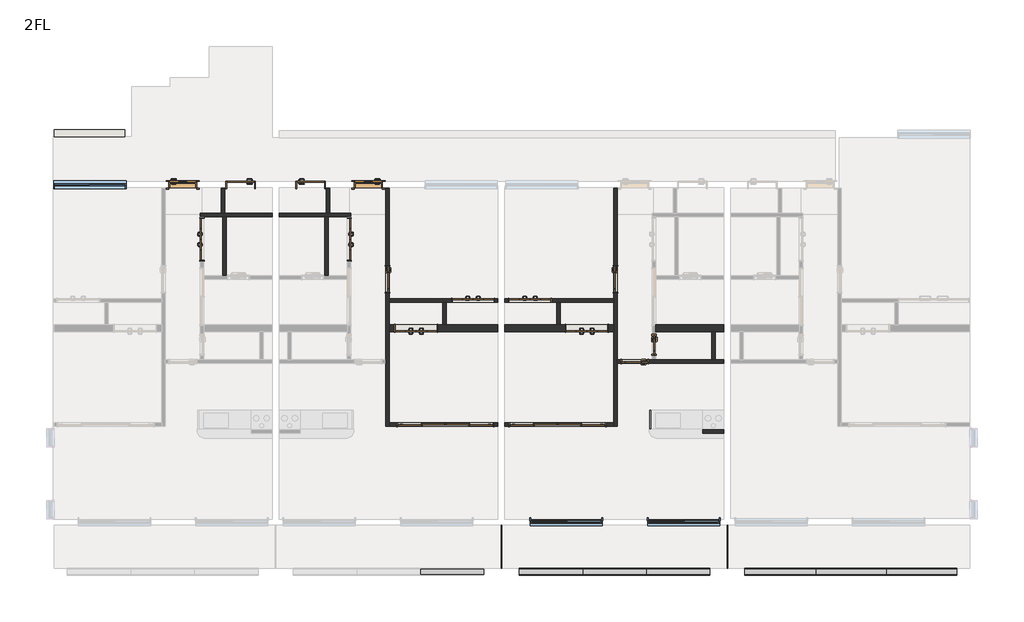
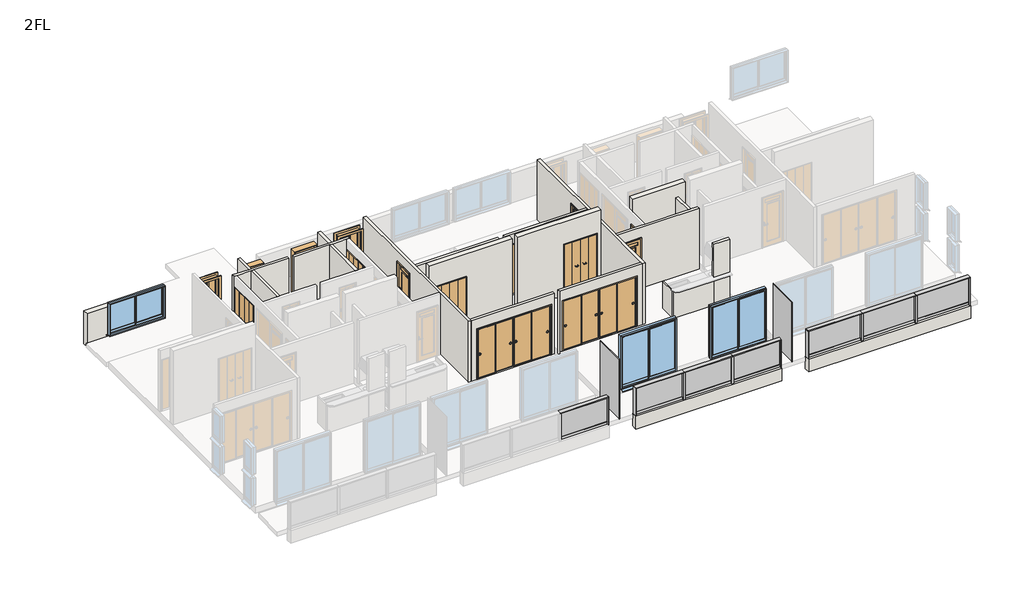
# One storey, part 2 of 3: 25 walls, 16 doors, 16 members, 9 plates, 3 windows.
"""IFC4 building model written with IfcOpenShell, lengths in millimetres."""

from ifc_helpers import new_model, si_unit, frame, origin, place, context, project, spatial, polyline, outline, extrude, faceted_brep, transform, mapped, element, save
from components import door_800x2000_a7d1584b, door_800x2000_010bfebf, w1200h2000_98cacc9b, w1200h2000_ebe1d490, w1200h2000_6a144d60, w1200h2000_99d19fb3, w2800h2000_670b855b, w2800h2000_04aa64cd, w600h2000_7f2747f4, w800h2000_1d97c4d4, w800h2000_0ab7d42c, w800h2000_13e9f519, w800h2000_ccb03061, member_25x150_3f8205e2, member_25x150_f694351b, member_25x150_e95393f9, member_70x150_851c8a9b, plate_6aa9e5b9, plate_9f48129f, plate_365944b3, plate_b830f844, plate_2f85ae4c, window_2000x1200_fc91d1cf, window_2000x2000_f1ff98da

model = new_model("IFC4")

# Units and contexts
model_context = context("Model", 3, world=origin())
ifc_project = project(units=[si_unit("LENGTHUNIT", "METRE", prefix="MILLI")], contexts=[model_context])

# Site, building, storey
site = spatial("IfcSite", under=ifc_project)
building = spatial("IfcBuilding", under=site)
storey = spatial("IfcBuildingStorey", under=building, Name="2FL", Elevation=4000.0)

# Doors
placement = place(None, origin())
door_800x2000_shape = door_800x2000_a7d1584b(model_context)
element("IfcDoor", 1, ObjectType="片開き3 : 800x2000", at=placement, inside=storey, context=model_context, shape_type="MappedRepresentation", body=[
    mapped(door_800x2000_shape, transform((-7378.7187246, -5726.3671638, 4000.0), x_axis=(1.0, 0.0, 0.0), y_axis=(0.0, 1.0, 0.0), z_axis=(0.0, 0.0, 1.0))),
])
door_800x2000_2_shape = door_800x2000_010bfebf(model_context)
element("IfcDoor", 2, ObjectType="片開き3 : 800x2000", at=placement, inside=storey, context=model_context, shape_type="MappedRepresentation", body=[
    mapped(door_800x2000_2_shape, transform((-2078.7187246, -5726.3671638, 4000.0), x_axis=(-1.0, 0.0, 0.0), y_axis=(0.0, -1.0, 0.0), z_axis=(0.0, 0.0, 1.0))),
])
w1200h2000_shape = w1200h2000_98cacc9b(model_context)
element("IfcDoor", 3, ObjectType="木製折戸 : w1200h2000", at=placement, inside=storey, context=model_context, shape_type="MappedRepresentation", body=[
    mapped(w1200h2000_shape, transform((4158.7812754, -9820.1171638, 4100.0), x_axis=(-1.0, 0.0, 0.0), y_axis=(0.0, -1.0, 0.0), z_axis=(0.0, 0.0, 1.0))),
])
w1200h2000_2_shape = w1200h2000_ebe1d490(model_context)
element("IfcDoor", 4, ObjectType="木製折戸 : w1200h2000", at=placement, inside=storey, context=model_context, shape_type="MappedRepresentation", body=[
    mapped(w1200h2000_2_shape, transform((-716.2187246, -9820.1171638, 4100.0), x_axis=(1.0, 0.0, 0.0), y_axis=(0.0, 1.0, 0.0), z_axis=(0.0, 0.0, 1.0))),
])
w1200h2000_3_shape = w1200h2000_6a144d60(model_context)
element("IfcDoor", 5, ObjectType="木製折戸 : w1200h2000", at=placement, inside=storey, context=model_context, shape_type="MappedRepresentation", body=[
    mapped(w1200h2000_3_shape, transform((-6828.7187246, -7280.1171638, 4100.0), x_axis=(0.0, 1.0, 0.0), y_axis=(-1.0, 0.0, 0.0), z_axis=(0.0, 0.0, 1.0))),
])
element("IfcDoor", 6, ObjectType="木製折戸 : w1200h2000", at=placement, inside=storey, context=model_context, shape_type="MappedRepresentation", body=[
    mapped(w1200h2000_3_shape, transform((2533.7812754, -9020.1171638, 4100.0), x_axis=(1.0, 0.0, 0.0), y_axis=(0.0, 1.0, 0.0), z_axis=(0.0, 0.0, 1.0))),
])
w1200h2000_4_shape = w1200h2000_99d19fb3(model_context)
element("IfcDoor", 7, ObjectType="木製折戸 : w1200h2000", at=placement, inside=storey, context=model_context, shape_type="MappedRepresentation", body=[
    mapped(w1200h2000_4_shape, transform((908.7812754, -9020.1171638, 4100.0), x_axis=(-1.0, 0.0, 0.0), y_axis=(0.0, -1.0, 0.0), z_axis=(0.0, 0.0, 1.0))),
])
element("IfcDoor", 8, ObjectType="木製折戸 : w1200h2000", at=placement, inside=storey, context=model_context, shape_type="MappedRepresentation", body=[
    mapped(w1200h2000_4_shape, transform((-2628.7187246, -7280.1171638, 4100.0), x_axis=(0.0, 1.0, 0.0), y_axis=(-1.0, 0.0, 0.0), z_axis=(0.0, 0.0, 1.0))),
])
w2800h2000_shape = w2800h2000_670b855b(model_context)
element("IfcDoor", 9, ObjectType="引違い 4 枚 2 溝_襖 : w2800h2000", at=placement, inside=storey, context=model_context, shape_type="MappedRepresentation", body=[
    mapped(w2800h2000_shape, transform((3315.7457714, -12570.1171638, 4100.0), x_axis=(-1.0, 0.0, 0.0), y_axis=(0.0, -1.0, 0.0), z_axis=(0.0, 0.0, 1.0))),
])
w2800h2000_2_shape = w2800h2000_04aa64cd(model_context)
element("IfcDoor", 10, ObjectType="引違い 4 枚 2 溝_襖 : w2800h2000", at=placement, inside=storey, context=model_context, shape_type="MappedRepresentation", body=[
    mapped(w2800h2000_2_shape, transform((126.8167793, -12570.1171638, 4100.0), x_axis=(1.0, 0.0, 0.0), y_axis=(0.0, 1.0, 0.0), z_axis=(0.0, 0.0, 1.0))),
])
w600h2000_shape = w600h2000_7f2747f4(model_context)
element("IfcDoor", 11, ObjectType="片開戸CL2058 : w600h2000", at=placement, inside=storey, context=model_context, shape_type="MappedRepresentation", body=[
    mapped(w600h2000_shape, transform((6071.2812754, -10295.1171638, 4100.0), x_axis=(0.0, -1.0, 0.0), y_axis=(1.0, 0.0, 0.0), z_axis=(0.0, 0.0, 1.0))),
])
w800h2000_shape = w800h2000_1d97c4d4(model_context)
element("IfcDoor", 12, ObjectType="片開 : w800h2000", at=placement, inside=storey, context=model_context, shape_type="MappedRepresentation", body=[
    mapped(w800h2000_shape, transform((-5728.7187246, -5726.3671638, 4000.0), x_axis=(-1.0, 0.0, 0.0), y_axis=(0.0, -1.0, 0.0), z_axis=(0.0, 0.0, 1.0))),
])
w800h2000_2_shape = w800h2000_0ab7d42c(model_context)
element("IfcDoor", 13, ObjectType="片開 : w800h2000", at=placement, inside=storey, context=model_context, shape_type="MappedRepresentation", body=[
    mapped(w800h2000_2_shape, transform((-3728.7187246, -5726.3671638, 4000.0), x_axis=(1.0, 0.0, 0.0), y_axis=(0.0, 1.0, 0.0), z_axis=(0.0, 0.0, 1.0))),
])
w800h2000_3_shape = w800h2000_13e9f519(model_context)
element("IfcDoor", 14, ObjectType="片開戸CL2058 : w800h2000", at=placement, inside=storey, context=model_context, shape_type="MappedRepresentation", body=[
    mapped(w800h2000_3_shape, transform((4971.2812754, -8420.1171638, 4100.0), x_axis=(0.0, -1.0, 0.0), y_axis=(1.0, 0.0, 0.0), z_axis=(0.0, 0.0, 1.0))),
])
w800h2000_4_shape = w800h2000_ccb03061(model_context)
element("IfcDoor", 15, ObjectType="片開戸CL2058 : w800h2000", at=placement, inside=storey, context=model_context, shape_type="MappedRepresentation", body=[
    mapped(w800h2000_4_shape, transform((-1528.7187246, -8420.1171638, 4100.0), x_axis=(0.0, -1.0, 0.0), y_axis=(1.0, 0.0, 0.0), z_axis=(0.0, 0.0, 1.0))),
])
element("IfcDoor", 16, ObjectType="片開戸CL2058 : w800h2000", at=placement, inside=storey, context=model_context, shape_type="MappedRepresentation", body=[
    mapped(w800h2000_4_shape, transform((5521.2812754, -10770.1171638, 4100.0), x_axis=(-1.0, 0.0, 0.0), y_axis=(0.0, -1.0, 0.0), z_axis=(0.0, 0.0, 1.0))),
])

# Members
member_25x150_shape = member_25x150_3f8205e2(model_context)
element("IfcMember", 17, ObjectType="長方形のマリオン : 25x150", at=placement, inside=storey, context=model_context, shape_type="MappedRepresentation", body=[
    mapped(member_25x150_shape, transform((1221.2812754, -16770.1171638, 4000.0), x_axis=(1.0, 0.0, 0.0), y_axis=(0.0, -1.0, 0.0), z_axis=(0.0, 0.0, -1.0))),
])
element("IfcMember", 18, ObjectType="長方形のマリオン : 25x150", at=placement, inside=storey, context=model_context, shape_type="MappedRepresentation", body=[
    mapped(member_25x150_shape, transform((7671.2812754, -16770.1171638, 4000.0), x_axis=(1.0, 0.0, 0.0), y_axis=(0.0, -1.0, 0.0), z_axis=(0.0, 0.0, -1.0))),
])
element("IfcMember", 19, ObjectType="長方形のマリオン : 25x150", at=placement, inside=storey, context=model_context, shape_type="MappedRepresentation", body=[
    mapped(member_25x150_shape, transform((14721.2812754, -16770.1171638, 4000.0), x_axis=(1.0, 0.0, 0.0), y_axis=(0.0, -1.0, 0.0), z_axis=(0.0, 0.0, -1.0))),
])
element("IfcMember", 20, ObjectType="長方形のマリオン : 25x150", at=placement, inside=storey, context=model_context, shape_type="MappedRepresentation", body=[
    mapped(member_25x150_shape, transform((2221.2812754, -16770.1171638, 5075.0), x_axis=(-1.0, 0.0, 0.0), y_axis=(0.0, -1.0, 0.0), z_axis=(0.0, 0.0, 1.0))),
])
element("IfcMember", 21, ObjectType="長方形のマリオン : 25x150", at=placement, inside=storey, context=model_context, shape_type="MappedRepresentation", body=[
    mapped(member_25x150_shape, transform((8671.2812754, -16770.1171638, 5075.0), x_axis=(-1.0, 0.0, 0.0), y_axis=(0.0, -1.0, 0.0), z_axis=(0.0, 0.0, 1.0))),
])
member_25x150_2_shape = member_25x150_f694351b(model_context)
element("IfcMember", 22, ObjectType="長方形のマリオン : 25x150", at=placement, inside=storey, context=model_context, shape_type="MappedRepresentation", body=[
    mapped(member_25x150_2_shape, transform((1221.2812754, -16770.1171638, 5100.0), x_axis=(0.0, 0.0, 1.0), y_axis=(0.0, -1.0, 0.0), z_axis=(1.0, 0.0, 0.0))),
])
element("IfcMember", 23, ObjectType="長方形のマリオン : 25x150", at=placement, inside=storey, context=model_context, shape_type="MappedRepresentation", body=[
    mapped(member_25x150_2_shape, transform((7671.2812754, -16770.1171638, 5100.0), x_axis=(0.0, 0.0, 1.0), y_axis=(0.0, -1.0, 0.0), z_axis=(1.0, 0.0, 0.0))),
])
element("IfcMember", 24, ObjectType="長方形のマリオン : 25x150", at=placement, inside=storey, context=model_context, shape_type="MappedRepresentation", body=[
    mapped(member_25x150_2_shape, transform((4037.947942, -16770.1171638, 5100.0), x_axis=(0.0, 0.0, 1.0), y_axis=(0.0, -1.0, 0.0), z_axis=(1.0, 0.0, 0.0))),
])
element("IfcMember", 25, ObjectType="長方形のマリオン : 25x150", at=placement, inside=storey, context=model_context, shape_type="MappedRepresentation", body=[
    mapped(member_25x150_2_shape, transform((5854.6146087, -16770.1171638, 5100.0), x_axis=(0.0, 0.0, 1.0), y_axis=(0.0, -1.0, 0.0), z_axis=(1.0, 0.0, 0.0))),
])
member_25x150_3_shape = member_25x150_e95393f9(model_context)
element("IfcMember", 26, ObjectType="長方形のマリオン : 25x150", at=placement, inside=storey, context=model_context, shape_type="MappedRepresentation", body=[
    mapped(member_25x150_3_shape, transform((14721.2812754, -16770.1171638, 5100.0), x_axis=(0.0, 0.0, 1.0), y_axis=(0.0, -1.0, 0.0), z_axis=(1.0, 0.0, 0.0))),
])
element("IfcMember", 27, ObjectType="長方形のマリオン : 25x150", at=placement, inside=storey, context=model_context, shape_type="MappedRepresentation", body=[
    mapped(member_25x150_3_shape, transform((10687.947942, -16770.1171638, 5100.0), x_axis=(0.0, 0.0, 1.0), y_axis=(0.0, -1.0, 0.0), z_axis=(1.0, 0.0, 0.0))),
])
element("IfcMember", 28, ObjectType="長方形のマリオン : 25x150", at=placement, inside=storey, context=model_context, shape_type="MappedRepresentation", body=[
    mapped(member_25x150_3_shape, transform((12704.6146087, -16770.1171638, 5100.0), x_axis=(0.0, 0.0, 1.0), y_axis=(0.0, -1.0, 0.0), z_axis=(1.0, 0.0, 0.0))),
])
member_70x150_shape = member_70x150_851c8a9b(model_context)
element("IfcMember", 29, ObjectType="長方形のマリオン : 70x150", at=placement, inside=storey, context=model_context, shape_type="MappedRepresentation", body=[
    mapped(member_70x150_shape, transform((4037.947942, -16770.1171638, 4000.0), x_axis=(1.0, 0.0, 0.0), y_axis=(0.0, -1.0, 0.0), z_axis=(0.0, 0.0, -1.0))),
])
element("IfcMember", 30, ObjectType="長方形のマリオン : 70x150", at=placement, inside=storey, context=model_context, shape_type="MappedRepresentation", body=[
    mapped(member_70x150_shape, transform((5854.6146087, -16770.1171638, 4000.0), x_axis=(1.0, 0.0, 0.0), y_axis=(0.0, -1.0, 0.0), z_axis=(0.0, 0.0, -1.0))),
])
element("IfcMember", 31, ObjectType="長方形のマリオン : 70x150", at=placement, inside=storey, context=model_context, shape_type="MappedRepresentation", body=[
    mapped(member_70x150_shape, transform((10687.947942, -16770.1171638, 4000.0), x_axis=(1.0, 0.0, 0.0), y_axis=(0.0, -1.0, 0.0), z_axis=(0.0, 0.0, -1.0))),
])
element("IfcMember", 32, ObjectType="長方形のマリオン : 70x150", at=placement, inside=storey, context=model_context, shape_type="MappedRepresentation", body=[
    mapped(member_70x150_shape, transform((12704.6146087, -16770.1171638, 4000.0), x_axis=(1.0, 0.0, 0.0), y_axis=(0.0, -1.0, 0.0), z_axis=(0.0, 0.0, -1.0))),
])

# Plates
plate_shape = plate_6aa9e5b9(model_context)
element("IfcPlate", 33, ObjectType="システム パネル : 標準", at=placement, inside=storey, context=model_context, shape_type="MappedRepresentation", body=[
    mapped(plate_shape, transform((1721.2812754, -16056.9921638, 3950.0), x_axis=(0.0, -1.0, 0.0), y_axis=(1.0, 0.0, 0.0), z_axis=(0.0, 0.0, 1.0))),
])
element("IfcPlate", 34, ObjectType="システム パネル : 標準", at=placement, inside=storey, context=model_context, shape_type="MappedRepresentation", body=[
    mapped(plate_shape, transform((8171.2812754, -16056.9921638, 3950.0), x_axis=(0.0, -1.0, 0.0), y_axis=(1.0, 0.0, 0.0), z_axis=(0.0, 0.0, 1.0))),
])
plate_2_shape = plate_9f48129f(model_context)
element("IfcPlate", 35, ObjectType="r パネル FIX 下框付 : 框 H100", at=placement, inside=storey, context=model_context, shape_type="MappedRepresentation", body=[
    mapped(plate_2_shape, transform((317.947942, -16770.1171638, 4000.0), x_axis=(1.0, 0.0, 0.0), y_axis=(0.0, 1.0, 0.0), z_axis=(0.0, 0.0, 1.0))),
])
element("IfcPlate", 36, ObjectType="r パネル FIX 下框付 : 框 H100", at=placement, inside=storey, context=model_context, shape_type="MappedRepresentation", body=[
    mapped(plate_2_shape, transform((3124.6146087, -16770.1171638, 4000.0), x_axis=(1.0, 0.0, 0.0), y_axis=(0.0, 1.0, 0.0), z_axis=(0.0, 0.0, 1.0))),
])
element("IfcPlate", 37, ObjectType="r パネル FIX 下框付 : 框 H100", at=placement, inside=storey, context=model_context, shape_type="MappedRepresentation", body=[
    mapped(plate_2_shape, transform((6767.947942, -16770.1171638, 4000.0), x_axis=(1.0, 0.0, 0.0), y_axis=(0.0, 1.0, 0.0), z_axis=(0.0, 0.0, 1.0))),
])
plate_3_shape = plate_365944b3(model_context)
element("IfcPlate", 38, ObjectType="r パネル FIX 下框付 : 框 H100", at=placement, inside=storey, context=model_context, shape_type="MappedRepresentation", body=[
    mapped(plate_3_shape, transform((4946.2812754, -16770.1171638, 4000.0), x_axis=(1.0, 0.0, 0.0), y_axis=(0.0, 1.0, 0.0), z_axis=(0.0, 0.0, 1.0))),
])
plate_4_shape = plate_b830f844(model_context)
element("IfcPlate", 39, ObjectType="r パネル FIX 下框付 : 框 H100", at=placement, inside=storey, context=model_context, shape_type="MappedRepresentation", body=[
    mapped(plate_4_shape, transform((9674.6146087, -16770.1171638, 4000.0), x_axis=(1.0, 0.0, 0.0), y_axis=(0.0, 1.0, 0.0), z_axis=(0.0, 0.0, 1.0))),
])
element("IfcPlate", 40, ObjectType="r パネル FIX 下框付 : 框 H100", at=placement, inside=storey, context=model_context, shape_type="MappedRepresentation", body=[
    mapped(plate_4_shape, transform((13717.947942, -16770.1171638, 4000.0), x_axis=(1.0, 0.0, 0.0), y_axis=(0.0, 1.0, 0.0), z_axis=(0.0, 0.0, 1.0))),
])
plate_5_shape = plate_2f85ae4c(model_context)
element("IfcPlate", 41, ObjectType="r パネル FIX 下框付 : 框 H100", at=placement, inside=storey, context=model_context, shape_type="MappedRepresentation", body=[
    mapped(plate_5_shape, transform((11696.2812754, -16770.1171638, 4000.0), x_axis=(1.0, 0.0, 0.0), y_axis=(0.0, 1.0, 0.0), z_axis=(0.0, 0.0, 1.0))),
])

# Walls
element("IfcWall", 42, ObjectType="内壁(R)RC200", at=placement, inside=storey, context=model_context, shape_type="Brep", body=[
    faceted_brep([(1621.2812754, -9720.1171638, 4000.0), (146.2812754, -9720.1171638, 4000.0), (46.2812754, -9720.1171638, 4000.0), (-1478.7187246, -9720.1171638, 4000.0), (-1478.7187246, -9720.1171638, 7000.0), (1621.2812754, -9720.1171638, 7000.0), (-96.2187246, -9720.1171638, 6120.0), (-1336.2187246, -9720.1171638, 6120.0), (-1336.2187246, -9720.1171638, 4100.0), (-96.2187246, -9720.1171638, 4100.0), (1621.2812754, -9920.1171638, 4000.0), (1621.2812754, -9920.1171638, 7000.0), (-1478.7187246, -9920.1171638, 7000.0), (-1478.7187246, -9920.1171638, 4000.0), (-96.2187246, -9920.1171638, 6120.0), (-96.2187246, -9920.1171638, 4100.0), (-1336.2187246, -9920.1171638, 4100.0), (-1336.2187246, -9920.1171638, 6120.0)], [[[0, 1, 2, 3, 4, 5], [6, 7, 8, 9]], [[10, 11, 12, 13], [14, 15, 16, 17]], [[3, 2, 1, 0, 10, 13]], [[5, 4, 12, 11]], [[15, 14, 6, 9]], [[16, 15, 9, 8]], [[17, 16, 8, 7]], [[14, 17, 7, 6]], [[0, 5, 11, 10]], [[4, 3, 13, 12]]]),
])
element("IfcWall", 43, ObjectType="内壁(R)RC200", at=placement, inside=storey, context=model_context, shape_type="Brep", body=[
    faceted_brep([(1821.2812754, -9920.1171638, 4000.0), (4921.2812754, -9920.1171638, 4000.0), (4921.2812754, -9920.1171638, 7000.0), (1821.2812754, -9920.1171638, 7000.0), (3538.7812754, -9920.1171638, 6120.0), (4778.7812754, -9920.1171638, 6120.0), (4778.7812754, -9920.1171638, 4100.0), (3538.7812754, -9920.1171638, 4100.0), (1821.2812754, -9720.1171638, 4000.0), (1821.2812754, -9720.1171638, 7000.0), (4921.2812754, -9720.1171638, 7000.0), (4921.2812754, -9720.1171638, 4000.0), (3396.2812754, -9720.1171638, 4000.0), (3296.2812754, -9720.1171638, 4000.0), (3538.7812754, -9720.1171638, 6120.0), (3538.7812754, -9720.1171638, 4100.0), (4778.7812754, -9720.1171638, 4100.0), (4778.7812754, -9720.1171638, 6120.0)], [[[0, 1, 2, 3], [4, 5, 6, 7]], [[8, 9, 10, 11, 12, 13], [14, 15, 16, 17]], [[1, 0, 8, 13, 12, 11]], [[3, 2, 10, 9]], [[15, 14, 4, 7]], [[16, 15, 7, 6]], [[17, 16, 6, 5]], [[14, 17, 5, 4]], [[0, 3, 9, 8]], [[2, 1, 11, 10]]]),
])
element("IfcWall", 44, ObjectType="内壁(R)RC200", at=placement, inside=storey, context=model_context, shape_type="Brep", body=[
    faceted_brep([(6121.2812754, -9920.1171638, 4000.0), (7721.2812754, -9920.1171638, 4000.0), (7821.2812754, -9920.1171638, 4000.0), (8071.2812754, -9920.1171638, 4000.0), (8071.2812754, -9920.1171638, 7000.0), (6121.2812754, -9920.1171638, 7000.0), (6121.2812754, -9720.1171638, 4000.0), (6121.2812754, -9720.1171638, 7000.0), (8071.2812754, -9720.1171638, 7000.0), (8071.2812754, -9720.1171638, 4000.0)], [[[0, 1, 2, 3, 4, 5]], [[6, 7, 8, 9]], [[3, 2, 1, 0, 6, 9]], [[5, 4, 8, 7]], [[0, 5, 7, 6]], [[4, 3, 9, 8]]]),
])
element("IfcWall", 45, ObjectType="(R)RC200", at=placement, inside=storey, context=model_context, shape_type="SweptSolid", body=[
    extrude(outline(polyline([(-9028.7187246, -4350.1171638), (-11052.4687246, -4350.1171638), (-11052.4687246, -4150.1171638), (-9028.7187246, -4150.1171638), (-9028.7187246, -4350.1171638)])), frame((0.0, 0.0, 3800.0), z_axis=(0.0, 0.0, 1.0), x_axis=(1.0, 0.0, 0.0)), (0.0, 0.0, 1.0), 1300.0),
])
element("IfcWall", 46, ObjectType="(R)RC200", at=placement, inside=storey, context=model_context, shape_type="SweptSolid", body=[
    extrude(outline(polyline([(7671.2812754, -16870.1171638), (2221.2812754, -16870.1171638), (2221.2812754, -16670.1171638), (7671.2812754, -16670.1171638), (7671.2812754, -16870.1171638)])), frame((0.0, 0.0, 3500.0), z_axis=(0.0, 0.0, 1.0), x_axis=(1.0, 0.0, 0.0)), (0.0, 0.0, 1.0), 500.0),
])
element("IfcWall", 47, ObjectType="(R)RC200", at=placement, inside=storey, context=model_context, shape_type="SweptSolid", body=[
    extrude(outline(polyline([(14721.2812754, -16870.1171638), (8671.2812754, -16870.1171638), (8671.2812754, -16670.1171638), (14721.2812754, -16670.1171638), (14721.2812754, -16870.1171638)])), frame((0.0, 0.0, 3500.0), z_axis=(0.0, 0.0, 1.0), x_axis=(1.0, 0.0, 0.0)), (0.0, 0.0, 1.0), 500.0),
])
element("IfcWall", 48, ObjectType="(F)30", at=placement, inside=storey, context=model_context, shape_type="SweptSolid", body=[
    extrude(outline(polyline([(5948.8875596, -12720.1171638), (5948.8875596, -12165.1171638), (5978.8875596, -12165.1171638), (5978.8875596, -12720.1171638), (5948.8875596, -12720.1171638)])), frame((0.0, 0.0, 4100.0), z_axis=(0.0, 0.0, 1.0), x_axis=(1.0, 0.0, 0.0)), (0.0, 0.0, 1.0), 1060.0),
])
element("IfcWall", 49, ObjectType="(L1)LGS100", at=placement, inside=storey, context=model_context, shape_type="Brep", body=[
    faceted_brep([(-6878.7187246, -6630.1171638, 4000.0), (-6778.7187246, -6630.1171638, 4000.0), (-6238.7187246, -6630.1171638, 4000.0), (-6138.7187246, -6630.1171638, 4000.0), (-4828.7187246, -6630.1171638, 4000.0), (-4828.7187246, -6630.1171638, 6500.0), (-6138.7187246, -6630.1171638, 6500.0), (-6238.7187246, -6630.1171638, 6500.0), (-6778.7187246, -6630.1171638, 6500.0), (-6878.7187246, -6630.1171638, 6500.0), (-6878.7187246, -6530.1171638, 4000.0), (-6878.7187246, -6530.1171638, 6500.0), (-6278.7187246, -6530.1171638, 6500.0), (-6178.7187246, -6530.1171638, 6500.0), (-4828.7187246, -6530.1171638, 6500.0), (-4828.7187246, -6530.1171638, 4000.0), (-6178.7187246, -6530.1171638, 4000.0), (-6278.7187246, -6530.1171638, 4000.0)], [[[0, 1, 2, 3, 4, 5, 6, 7, 8, 9]], [[10, 11, 12, 13, 14, 15, 16, 17]], [[4, 3, 2, 1, 0, 10, 17, 16, 15]], [[9, 8, 7, 6, 5, 14, 13, 12, 11]], [[0, 9, 11, 10]], [[5, 4, 15, 14]]]),
])
element("IfcWall", 50, ObjectType="(L1)LGS100", at=placement, inside=storey, context=model_context, shape_type="SweptSolid", body=[
    extrude(outline(polyline([(-6178.7187246, -5826.3671638), (-6178.7187246, -6530.1171638), (-6278.7187246, -6530.1171638), (-6278.7187246, -5826.3671638), (-6178.7187246, -5826.3671638)])), frame((0.0, 0.0, 4000.0), z_axis=(0.0, 0.0, 1.0), x_axis=(1.0, 0.0, 0.0)), (0.0, 0.0, 1.0), 2500.0),
])
element("IfcWall", 51, ObjectType="(L1)LGS100", at=placement, inside=storey, context=model_context, shape_type="SweptSolid", body=[
    extrude(outline(polyline([(-6138.7187246, -6630.1171638), (-6138.7187246, -8320.1171638), (-6238.7187246, -8320.1171638), (-6238.7187246, -6630.1171638), (-6138.7187246, -6630.1171638)])), frame((0.0, 0.0, 4000.0), z_axis=(0.0, 0.0, 1.0), x_axis=(1.0, 0.0, 0.0)), (0.0, 0.0, 1.0), 2500.0),
])
element("IfcWall", 52, ObjectType="(L1)LGS100", at=placement, inside=storey, context=model_context, shape_type="Brep", body=[
    faceted_brep([(1621.2812754, -8970.1171638, 4000.0), (-1478.7187246, -8970.1171638, 4000.0), (-1478.7187246, -8970.1171638, 6500.0), (1621.2812754, -8970.1171638, 6500.0), (288.7812754, -8970.1171638, 6120.0), (288.7812754, -8970.1171638, 4100.0), (1528.7812754, -8970.1171638, 4100.0), (1528.7812754, -8970.1171638, 6120.0), (-1478.7187246, -9070.1171638, 4000.0), (46.2812754, -9070.1171638, 4000.0), (146.2812754, -9070.1171638, 4000.0), (1621.2812754, -9070.1171638, 4000.0), (1621.2812754, -9070.1171638, 6500.0), (146.2812754, -9070.1171638, 6500.0), (46.2812754, -9070.1171638, 6500.0), (-1478.7187246, -9070.1171638, 6500.0), (288.7812754, -9070.1171638, 4100.0), (288.7812754, -9070.1171638, 6120.0), (1528.7812754, -9070.1171638, 6120.0), (1528.7812754, -9070.1171638, 4100.0)], [[[0, 1, 2, 3], [4, 5, 6, 7]], [[8, 9, 10, 11, 12, 13, 14, 15], [16, 17, 18, 19]], [[1, 0, 11, 10, 9, 8]], [[3, 2, 15, 14, 13, 12]], [[2, 1, 8, 15]], [[4, 17, 16, 5]], [[5, 16, 19, 6]], [[17, 4, 7, 18]], [[18, 7, 6, 19]], [[0, 3, 12, 11]]]),
])
element("IfcWall", 53, ObjectType="(L1)LGS100", at=placement, inside=storey, context=model_context, shape_type="SweptSolid", body=[
    extrude(outline(polyline([(146.2812754, -9070.1171638), (146.2812754, -9720.1171638), (46.2812754, -9720.1171638), (46.2812754, -9070.1171638), (146.2812754, -9070.1171638)])), frame((0.0, 0.0, 4000.0), z_axis=(0.0, 0.0, 1.0), x_axis=(1.0, 0.0, 0.0)), (0.0, 0.0, 1.0), 2500.0),
])
element("IfcWall", 54, ObjectType="(L1)LGS100", at=placement, inside=storey, context=model_context, shape_type="Brep", body=[
    faceted_brep([(-1478.7187246, -12620.1171638, 4000.0), (-1478.7187246, -12520.1171638, 4000.0), (-1478.7187246, -9920.1171638, 4000.0), (-1478.7187246, -9720.1171638, 4000.0), (-1478.7187246, -9070.1171638, 4000.0), (-1478.7187246, -8970.1171638, 4000.0), (-1478.7187246, -5826.3671638, 4000.0), (-1478.7187246, -5826.3671638, 6500.0), (-1478.7187246, -8970.1171638, 6500.0), (-1478.7187246, -9070.1171638, 6500.0), (-1478.7187246, -12520.1171638, 6500.0), (-1478.7187246, -12620.1171638, 6500.0), (-1478.7187246, -8820.1171638, 4100.0), (-1478.7187246, -8820.1171638, 6100.0), (-1478.7187246, -8020.1171638, 6100.0), (-1478.7187246, -8020.1171638, 4100.0), (-1578.7187246, -12620.1171638, 4000.0), (-1578.7187246, -12620.1171638, 6500.0), (-1578.7187246, -10820.1171638, 6500.0), (-1578.7187246, -10720.1171638, 6500.0), (-1578.7187246, -5826.3671638, 6500.0), (-1578.7187246, -5826.3671638, 4000.0), (-1578.7187246, -10720.1171638, 4000.0), (-1578.7187246, -10820.1171638, 4000.0), (-1578.7187246, -8820.1171638, 4100.0), (-1578.7187246, -8020.1171638, 4100.0), (-1578.7187246, -8020.1171638, 6100.0), (-1578.7187246, -8820.1171638, 6100.0)], [[[0, 1, 2, 3, 4, 5, 6, 7, 8, 9, 10, 11], [12, 13, 14, 15]], [[16, 17, 18, 19, 20, 21, 22, 23], [24, 25, 26, 27]], [[6, 5, 4, 3, 2, 1, 0, 16, 23, 22, 21]], [[11, 10, 9, 8, 7, 20, 19, 18, 17]], [[0, 11, 17, 16]], [[13, 12, 24, 27]], [[14, 13, 27, 26]], [[15, 14, 26, 25]], [[12, 15, 25, 24]], [[7, 6, 21, 20]]]),
])
element("IfcWall", 55, ObjectType="(L1)LGS100", at=placement, inside=storey, context=model_context, shape_type="Brep", body=[
    faceted_brep([(-2578.7187246, -6530.1171638, 4000.0), (-3178.7187246, -6530.1171638, 4000.0), (-3278.7187246, -6530.1171638, 4000.0), (-4628.7187246, -6530.1171638, 4000.0), (-4628.7187246, -6530.1171638, 6500.0), (-3278.7187246, -6530.1171638, 6500.0), (-3178.7187246, -6530.1171638, 6500.0), (-2578.7187246, -6530.1171638, 6500.0), (-2578.7187246, -6630.1171638, 4000.0), (-2578.7187246, -6630.1171638, 6500.0), (-2678.7187246, -6630.1171638, 6500.0), (-3218.7187246, -6630.1171638, 6500.0), (-3318.7187246, -6630.1171638, 6500.0), (-4628.7187246, -6630.1171638, 6500.0), (-4628.7187246, -6630.1171638, 4000.0), (-3318.7187246, -6630.1171638, 4000.0), (-3218.7187246, -6630.1171638, 4000.0), (-2678.7187246, -6630.1171638, 4000.0)], [[[0, 1, 2, 3, 4, 5, 6, 7]], [[8, 9, 10, 11, 12, 13, 14, 15, 16, 17]], [[3, 2, 1, 0, 8, 17, 16, 15, 14]], [[7, 6, 5, 4, 13, 12, 11, 10, 9]], [[0, 7, 9, 8]], [[4, 3, 14, 13]]]),
])
element("IfcWall", 56, ObjectType="(L1)LGS100", at=placement, inside=storey, context=model_context, shape_type="SweptSolid", body=[
    extrude(outline(polyline([(-3178.7187246, -5826.3671638), (-3178.7187246, -6530.1171638), (-3278.7187246, -6530.1171638), (-3278.7187246, -5826.3671638), (-3178.7187246, -5826.3671638)])), frame((0.0, 0.0, 4000.0), z_axis=(0.0, 0.0, 1.0), x_axis=(1.0, 0.0, 0.0)), (0.0, 0.0, 1.0), 2500.0),
])
element("IfcWall", 57, ObjectType="(L1)LGS100", at=placement, inside=storey, context=model_context, shape_type="SweptSolid", body=[
    extrude(outline(polyline([(-3218.7187246, -6630.1171638), (-3218.7187246, -8320.1171638), (-3318.7187246, -8320.1171638), (-3318.7187246, -6630.1171638), (-3218.7187246, -6630.1171638)])), frame((0.0, 0.0, 4000.0), z_axis=(0.0, 0.0, 1.0), x_axis=(1.0, 0.0, 0.0)), (0.0, 0.0, 1.0), 2500.0),
])
element("IfcWall", 58, ObjectType="(L1)LGS100", at=placement, inside=storey, context=model_context, shape_type="SweptSolid", body=[
    extrude(outline(polyline([(4000.0, 1621.2812754), (6500.0, 1621.2812754), (6500.0, -1478.7187246), (4000.0, -1478.7187246), (4000.0, 1621.2812754)]), holes=[polyline([(6100.0, 1521.2812754), (4100.0, 1521.2812754), (4100.0, -1278.7187246), (6100.0, -1278.7187246), (6100.0, 1521.2812754)])]), frame((0.0, -12620.1171638, 0.0), z_axis=(0.0, 1.0, 0.0), x_axis=(0.0, 0.0, 1.0)), (0.0, 0.0, 1.0), 100.0),
])
element("IfcWall", 59, ObjectType="(L1)LGS100", at=placement, inside=storey, context=model_context, shape_type="Brep", body=[
    faceted_brep([(1821.2812754, -9070.1171638, 4000.0), (3296.2812754, -9070.1171638, 4000.0), (3396.2812754, -9070.1171638, 4000.0), (4921.2812754, -9070.1171638, 4000.0), (4921.2812754, -9070.1171638, 6500.0), (3396.2812754, -9070.1171638, 6500.0), (3296.2812754, -9070.1171638, 6500.0), (1821.2812754, -9070.1171638, 6500.0), (3153.7812754, -9070.1171638, 6120.0), (3153.7812754, -9070.1171638, 4100.0), (1913.7812754, -9070.1171638, 4100.0), (1913.7812754, -9070.1171638, 6120.0), (4921.2812754, -8970.1171638, 4000.0), (1821.2812754, -8970.1171638, 4000.0), (1821.2812754, -8970.1171638, 6500.0), (4921.2812754, -8970.1171638, 6500.0), (3153.7812754, -8970.1171638, 4100.0), (3153.7812754, -8970.1171638, 6120.0), (1913.7812754, -8970.1171638, 6120.0), (1913.7812754, -8970.1171638, 4100.0)], [[[0, 1, 2, 3, 4, 5, 6, 7], [8, 9, 10, 11]], [[12, 13, 14, 15], [16, 17, 18, 19]], [[3, 2, 1, 0, 13, 12]], [[7, 6, 5, 4, 15, 14]], [[4, 3, 12, 15]], [[8, 17, 16, 9]], [[9, 16, 19, 10]], [[17, 8, 11, 18]], [[18, 11, 10, 19]], [[0, 7, 14, 13]]]),
])
element("IfcWall", 60, ObjectType="(L1)LGS100", at=placement, inside=storey, context=model_context, shape_type="SweptSolid", body=[
    extrude(outline(polyline([(3396.2812754, -9070.1171638), (3396.2812754, -9720.1171638), (3296.2812754, -9720.1171638), (3296.2812754, -9070.1171638), (3396.2812754, -9070.1171638)])), frame((0.0, 0.0, 4000.0), z_axis=(0.0, 0.0, 1.0), x_axis=(1.0, 0.0, 0.0)), (0.0, 0.0, 1.0), 2500.0),
])
element("IfcWall", 61, ObjectType="(L1)LGS100", at=placement, inside=storey, context=model_context, shape_type="Brep", body=[
    faceted_brep([(5021.2812754, -12620.1171638, 4000.0), (5021.2812754, -10820.1171638, 4000.0), (5021.2812754, -10720.1171638, 4000.0), (5021.2812754, -5826.3671638, 4000.0), (5021.2812754, -5826.3671638, 6500.0), (5021.2812754, -10720.1171638, 6500.0), (5021.2812754, -10820.1171638, 6500.0), (5021.2812754, -12620.1171638, 6500.0), (5021.2812754, -8820.1171638, 4100.0), (5021.2812754, -8820.1171638, 6100.0), (5021.2812754, -8020.1171638, 6100.0), (5021.2812754, -8020.1171638, 4100.0), (4921.2812754, -12620.1171638, 4000.0), (4921.2812754, -12620.1171638, 6500.0), (4921.2812754, -12520.1171638, 6500.0), (4921.2812754, -9070.1171638, 6500.0), (4921.2812754, -8970.1171638, 6500.0), (4921.2812754, -5826.3671638, 6500.0), (4921.2812754, -5826.3671638, 4000.0), (4921.2812754, -8970.1171638, 4000.0), (4921.2812754, -9070.1171638, 4000.0), (4921.2812754, -9720.1171638, 4000.0), (4921.2812754, -9920.1171638, 4000.0), (4921.2812754, -12520.1171638, 4000.0), (4921.2812754, -8820.1171638, 4100.0), (4921.2812754, -8020.1171638, 4100.0), (4921.2812754, -8020.1171638, 6100.0), (4921.2812754, -8820.1171638, 6100.0)], [[[0, 1, 2, 3, 4, 5, 6, 7], [8, 9, 10, 11]], [[12, 13, 14, 15, 16, 17, 18, 19, 20, 21, 22, 23], [24, 25, 26, 27]], [[3, 2, 1, 0, 12, 23, 22, 21, 20, 19, 18]], [[7, 6, 5, 4, 17, 16, 15, 14, 13]], [[0, 7, 13, 12]], [[9, 8, 24, 27]], [[10, 9, 27, 26]], [[11, 10, 26, 25]], [[8, 11, 25, 24]], [[4, 3, 18, 17]]]),
])
element("IfcWall", 62, ObjectType="(L1)LGS100", at=placement, inside=storey, context=model_context, shape_type="SweptSolid", body=[
    extrude(outline(polyline([(7821.2812754, -9920.1171638), (7821.2812754, -10720.1171638), (7721.2812754, -10720.1171638), (7721.2812754, -9920.1171638), (7821.2812754, -9920.1171638)])), frame((0.0, 0.0, 4000.0), z_axis=(0.0, 0.0, 1.0), x_axis=(1.0, 0.0, 0.0)), (0.0, 0.0, 1.0), 2500.0),
])
element("IfcWall", 63, ObjectType="(L1)LGS100", at=placement, inside=storey, context=model_context, shape_type="Brep", body=[
    faceted_brep([(5021.2812754, -10820.1171638, 4000.0), (8071.2812754, -10820.1171638, 4000.0), (8071.2812754, -10820.1171638, 6500.0), (5021.2812754, -10820.1171638, 6500.0), (5121.2812754, -10820.1171638, 4100.0), (5121.2812754, -10820.1171638, 6100.0), (5921.2812754, -10820.1171638, 6100.0), (5921.2812754, -10820.1171638, 4100.0), (8071.2812754, -10720.1171638, 4000.0), (7821.2812754, -10720.1171638, 4000.0), (7721.2812754, -10720.1171638, 4000.0), (6121.2812754, -10720.1171638, 4000.0), (6021.2812754, -10720.1171638, 4000.0), (5021.2812754, -10720.1171638, 4000.0), (5021.2812754, -10720.1171638, 6500.0), (6021.2812754, -10720.1171638, 6500.0), (6121.2812754, -10720.1171638, 6500.0), (7721.2812754, -10720.1171638, 6500.0), (7821.2812754, -10720.1171638, 6500.0), (8071.2812754, -10720.1171638, 6500.0), (5121.2812754, -10720.1171638, 6100.0), (5121.2812754, -10720.1171638, 4100.0), (5921.2812754, -10720.1171638, 4100.0), (5921.2812754, -10720.1171638, 6100.0)], [[[0, 1, 2, 3], [4, 5, 6, 7]], [[8, 9, 10, 11, 12, 13, 14, 15, 16, 17, 18, 19], [20, 21, 22, 23]], [[1, 0, 13, 12, 11, 10, 9, 8]], [[3, 2, 19, 18, 17, 16, 15, 14]], [[0, 3, 14, 13]], [[4, 21, 20, 5]], [[5, 20, 23, 6]], [[6, 23, 22, 7]], [[21, 4, 7, 22]], [[2, 1, 8, 19]]]),
])
element("IfcWall", 64, ObjectType="(L1)LGS100", at=placement, inside=storey, context=model_context, shape_type="SweptSolid", body=[
    extrude(outline(polyline([(4000.0, 1821.2812754), (4000.0, 4921.2812754), (6500.0, 4921.2812754), (6500.0, 1821.2812754), (4000.0, 1821.2812754)]), holes=[polyline([(6100.0, 1921.2812754), (6100.0, 4721.2812754), (4100.0, 4721.2812754), (4100.0, 1921.2812754), (6100.0, 1921.2812754)])]), frame((0.0, -12620.1171638, 0.0), z_axis=(0.0, 1.0, 0.0), x_axis=(0.0, 0.0, 1.0)), (0.0, 0.0, 1.0), 100.0),
])
element("IfcWall", 65, ObjectType="(L1)LGS100", at=placement, inside=storey, context=model_context, shape_type="Brep", body=[
    faceted_brep([(8071.2812754, -12720.1171638, 4000.0), (7471.2812754, -12720.1171638, 4000.0), (7471.2812754, -12720.1171638, 5160.0), (7471.2812754, -12720.1171638, 6500.0), (8071.2812754, -12720.1171638, 6500.0), (8071.2812754, -12820.1171638, 4000.0), (8071.2812754, -12820.1171638, 6500.0), (7471.2812754, -12820.1171638, 6500.0), (7471.2812754, -12820.1171638, 5160.0), (7471.2812754, -12820.1171638, 4000.0)], [[[0, 1, 2, 3, 4]], [[5, 6, 7, 8, 9]], [[1, 0, 5, 9]], [[3, 2, 1, 9, 8, 7]], [[4, 3, 7, 6]], [[0, 4, 6, 5]]]),
])
element("IfcWall", 66, ObjectType="(L1)LGS100", at=placement, inside=storey, context=model_context, shape_type="Brep", body=[
    faceted_brep([(5948.8875596, -12820.1171638, 4000.0), (7471.2812754, -12820.1171638, 4000.0), (7471.2812754, -12820.1171638, 5160.0), (5948.8875596, -12820.1171638, 5160.0), (5948.8875596, -12720.1171638, 4000.0), (5948.8875596, -12720.1171638, 4100.0), (5948.8875596, -12720.1171638, 5160.0), (5978.8875596, -12720.1171638, 5160.0), (7471.2812754, -12720.1171638, 5160.0), (7471.2812754, -12720.1171638, 4000.0)], [[[0, 1, 2, 3]], [[4, 5, 6, 7, 8, 9]], [[1, 0, 4, 9]], [[2, 1, 9, 8]], [[3, 2, 8, 7, 6]], [[0, 3, 6, 5, 4]]]),
])

# Windows
window_2000x1200_shape = window_2000x1200_fc91d1cf(model_context)
element("IfcWindow", 67, ObjectType="鋼製_一般枠_引違い-二枚 : 2000x1200", at=placement, inside=storey, context=model_context, shape_type="MappedRepresentation", body=[
    mapped(window_2000x1200_shape, transform((-10028.7187246, -5726.3671638, 4250.0), x_axis=(1.0, 0.0, 0.0), y_axis=(0.0, 1.0, 0.0), z_axis=(0.0, 0.0, 1.0))),
])
window_2000x2000_shape = window_2000x2000_f1ff98da(model_context)
element("IfcWindow", 68, ObjectType="鋼製_一般枠_引違い-二枚 : 2000x2000", at=placement, inside=storey, context=model_context, shape_type="MappedRepresentation", body=[
    mapped(window_2000x2000_shape, transform((3571.2812754, -15343.8671638, 3200.0), x_axis=(-1.0, 0.0, 0.0), y_axis=(0.0, -1.0, 0.0), z_axis=(0.0, 0.0, 1.0))),
])
element("IfcWindow", 69, ObjectType="鋼製_一般枠_引違い-二枚 : 2000x2000", at=placement, inside=storey, context=model_context, shape_type="MappedRepresentation", body=[
    mapped(window_2000x2000_shape, transform((6921.2812754, -15343.8671638, 3200.0), x_axis=(-1.0, 0.0, 0.0), y_axis=(0.0, -1.0, 0.0), z_axis=(0.0, 0.0, 1.0))),
])

save(model, "model.ifc")
